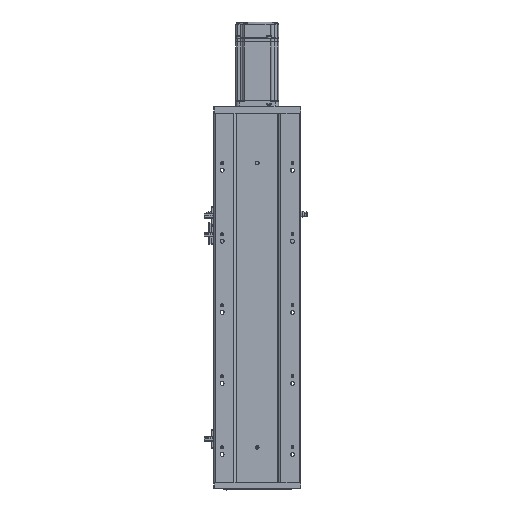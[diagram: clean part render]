
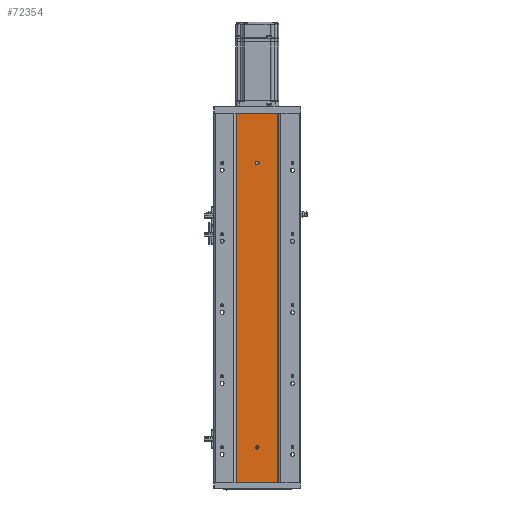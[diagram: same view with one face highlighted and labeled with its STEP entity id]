
A CAD part, front view. The second image highlights one B-rep face of the part: STEP entity #72354.
In plain terms, the highlighted planar face has unit normal (0, -1, 0).
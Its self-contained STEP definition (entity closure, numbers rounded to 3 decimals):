
#906 = CARTESIAN_POINT ( 'NONE',  ( 134.998, 50.307, 450. ) ) ;
#3893 = ORIENTED_EDGE ( 'NONE', *, *, #66971, .F. ) ;
#4182 = AXIS2_PLACEMENT_3D ( 'NONE', #48891, #54367, #73480 ) ;
#4930 = CARTESIAN_POINT ( 'NONE',  ( 163.998, 50.307, 0. ) ) ;
#5154 = CIRCLE ( 'NONE', #38990, 2.5 ) ;
#5629 = EDGE_CURVE ( 'NONE', #40452, #49474, #63343, .T. ) ;
#6653 = DIRECTION ( 'NONE',  ( 0., 0., -1. ) ) ;
#7260 = ORIENTED_EDGE ( 'NONE', *, *, #44285, .F. ) ;
#8474 = DIRECTION ( 'NONE',  ( 0., 0., -1. ) ) ;
#10011 = ORIENTED_EDGE ( 'NONE', *, *, #66519, .F. ) ;
#10068 = CIRCLE ( 'NONE', #71670, 2.5 ) ;
#10302 = CIRCLE ( 'NONE', #60516, 2.5 ) ;
#11581 = DIRECTION ( 'NONE',  ( 0., -1., 0. ) ) ;
#13370 = DIRECTION ( 'NONE',  ( 0., 0., -1. ) ) ;
#14736 = VECTOR ( 'NONE', #60116, 1000. ) ;
#17300 = PLANE ( 'NONE',  #4182 ) ;
#19768 = VECTOR ( 'NONE', #68471, 1000. ) ;
#20569 = VERTEX_POINT ( 'NONE', #4930 ) ;
#22212 = VERTEX_POINT ( 'NONE', #73028 ) ;
#22590 = VERTEX_POINT ( 'NONE', #37709 ) ;
#24359 = CARTESIAN_POINT ( 'NONE',  ( 0., 50.307, 520. ) ) ;
#25006 = CARTESIAN_POINT ( 'NONE',  ( 134.998, 50.307, 47.5 ) ) ;
#27911 = CARTESIAN_POINT ( 'NONE',  ( 105.998, 50.307, 520. ) ) ;
#29884 = EDGE_CURVE ( 'NONE', #49474, #20569, #68655, .T. ) ;
#29978 = FACE_BOUND ( 'NONE', #80016, .T. ) ;
#31535 = VERTEX_POINT ( 'NONE', #48851 ) ;
#31601 = DIRECTION ( 'NONE',  ( 0., -1., 0. ) ) ;
#32560 = EDGE_CURVE ( 'NONE', #22212, #20569, #54767, .T. ) ;
#33433 = CARTESIAN_POINT ( 'NONE',  ( 134.998, 50.307, 50. ) ) ;
#35656 = EDGE_LOOP ( 'NONE', ( #45009, #56194, #7260, #59034 ) ) ;
#37709 = CARTESIAN_POINT ( 'NONE',  ( 134.998, 50.307, 52.5 ) ) ;
#38552 = ORIENTED_EDGE ( 'NONE', *, *, #62899, .F. ) ;
#38990 = AXIS2_PLACEMENT_3D ( 'NONE', #906, #51179, #57969 ) ;
#39774 = DIRECTION ( 'NONE',  ( 0., -1., 0. ) ) ;
#40321 = DIRECTION ( 'NONE',  ( 0., 0., -1. ) ) ;
#40452 = VERTEX_POINT ( 'NONE', #68190 ) ;
#41291 = CARTESIAN_POINT ( 'NONE',  ( 0., 50.307, 0. ) ) ;
#44285 = EDGE_CURVE ( 'NONE', #40452, #22212, #80518, .T. ) ;
#45009 = ORIENTED_EDGE ( 'NONE', *, *, #29884, .T. ) ;
#48851 = CARTESIAN_POINT ( 'NONE',  ( 134.998, 50.307, 447.5 ) ) ;
#48891 = CARTESIAN_POINT ( 'NONE',  ( 0., 50.307, 520. ) ) ;
#49474 = VERTEX_POINT ( 'NONE', #58681 ) ;
#50821 = VECTOR ( 'NONE', #13370, 1000. ) ;
#51179 = DIRECTION ( 'NONE',  ( 0., -1., 0. ) ) ;
#54367 = DIRECTION ( 'NONE',  ( 0., 1., 0. ) ) ;
#54767 = LINE ( 'NONE', #55913, #50821 ) ;
#55913 = CARTESIAN_POINT ( 'NONE',  ( 163.998, 50.307, 520. ) ) ;
#56194 = ORIENTED_EDGE ( 'NONE', *, *, #32560, .F. ) ;
#56879 = ORIENTED_EDGE ( 'NONE', *, *, #74265, .F. ) ;
#57816 = VERTEX_POINT ( 'NONE', #62815 ) ;
#57969 = DIRECTION ( 'NONE',  ( 0., 0., -1. ) ) ;
#58681 = CARTESIAN_POINT ( 'NONE',  ( 105.998, 50.307, 0. ) ) ;
#59034 = ORIENTED_EDGE ( 'NONE', *, *, #5629, .T. ) ;
#60116 = DIRECTION ( 'NONE',  ( 1., 0., 0. ) ) ;
#60516 = AXIS2_PLACEMENT_3D ( 'NONE', #33433, #39774, #8474 ) ;
#62576 = CARTESIAN_POINT ( 'NONE',  ( 134.998, 50.307, 450. ) ) ;
#62815 = CARTESIAN_POINT ( 'NONE',  ( 134.998, 50.307, 452.5 ) ) ;
#62899 = EDGE_CURVE ( 'NONE', #31535, #57816, #5154, .T. ) ;
#63343 = LINE ( 'NONE', #27911, #66332 ) ;
#66332 = VECTOR ( 'NONE', #40321, 1000. ) ;
#66519 = EDGE_CURVE ( 'NONE', #57816, #31535, #66987, .T. ) ;
#66971 = EDGE_CURVE ( 'NONE', #79026, #22590, #10068, .T. ) ;
#66987 = CIRCLE ( 'NONE', #67457, 2.5 ) ;
#67242 = FACE_OUTER_BOUND ( 'NONE', #35656, .T. ) ;
#67457 = AXIS2_PLACEMENT_3D ( 'NONE', #62576, #31601, #6653 ) ;
#68190 = CARTESIAN_POINT ( 'NONE',  ( 105.998, 50.307, 520. ) ) ;
#68471 = DIRECTION ( 'NONE',  ( 1., 0., 0. ) ) ;
#68655 = LINE ( 'NONE', #41291, #14736 ) ;
#71670 = AXIS2_PLACEMENT_3D ( 'NONE', #81381, #11581, #81118 ) ;
#72354 = ADVANCED_FACE ( 'NONE', ( #29978, #76068, #67242 ), #17300, .F. ) ;
#73028 = CARTESIAN_POINT ( 'NONE',  ( 163.998, 50.307, 520. ) ) ;
#73480 = DIRECTION ( 'NONE',  ( -1., 0., 0. ) ) ;
#74265 = EDGE_CURVE ( 'NONE', #22590, #79026, #10302, .T. ) ;
#76068 = FACE_BOUND ( 'NONE', #78661, .T. ) ;
#78661 = EDGE_LOOP ( 'NONE', ( #3893, #56879 ) ) ;
#79026 = VERTEX_POINT ( 'NONE', #25006 ) ;
#80016 = EDGE_LOOP ( 'NONE', ( #38552, #10011 ) ) ;
#80518 = LINE ( 'NONE', #24359, #19768 ) ;
#81118 = DIRECTION ( 'NONE',  ( 0., 0., -1. ) ) ;
#81381 = CARTESIAN_POINT ( 'NONE',  ( 134.998, 50.307, 50. ) ) ;
